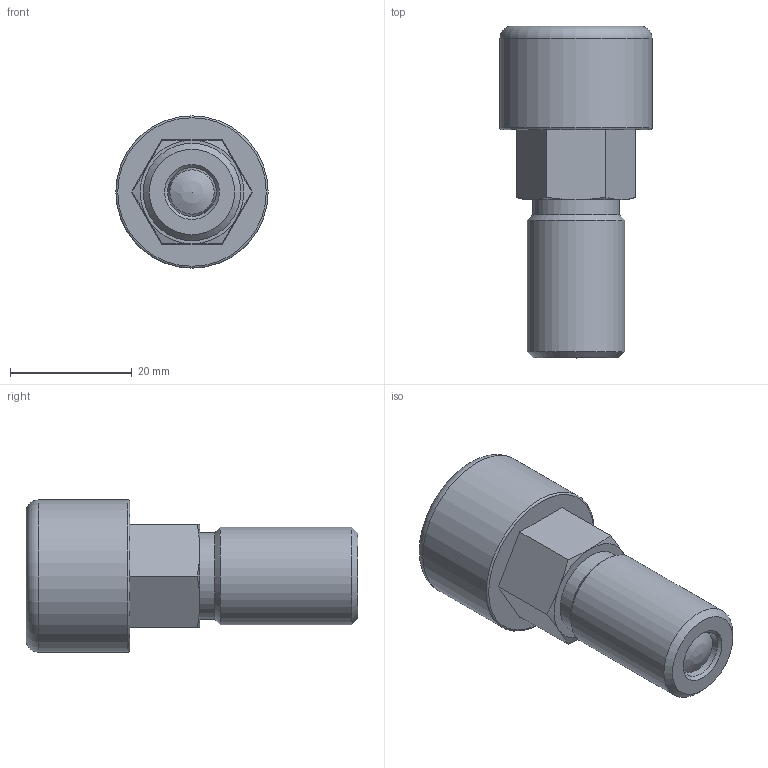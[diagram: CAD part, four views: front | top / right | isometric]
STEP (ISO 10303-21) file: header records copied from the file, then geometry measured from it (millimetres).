
FILE_DESCRIPTION( ( 'STEP AP203' ), '1' );
FILE_NAME( 'C:/Temp/Ganter_Step_05_03_2020/data/3_1/gn514/gn514_a/Locking plunger GN 514-8-A (deactivated).stp', '2020-03-12T08:32:06', ( 'License CC BY-ND 4.0' ), ( 'CADENAS' ), ' ', 'PARTsolutions', ' ' );
FILE_SCHEMA( ( 'CONFIG_CONTROL_DESIGN' ) );
Length unit declared in the file: millimetre
Products named in the file (3): Locking plunger GN 514-8-A (deactivated); _Locking plunger GN 514-8-A (unbetaetigt)-1; _Locking plunger GN 514-8-A (unbetaetigt)-2
Assembly tree (2 placements, depth 2):
  Locking plunger GN 514-8-A (deactivated)
    _Locking plunger GN 514-8-A (unbetaetigt)-1
    _Locking plunger GN 514-8-A (unbetaetigt)-2
Bounding box: 25 x 54.5 x 25 mm (x, y, z)
Volume: 13511 mm3; surface area: 8382.7 mm2
Topology: 2 solids, 2 shells, 68 faces, 135 edges, 81 vertices
Faces by surface type: plane 26, torus 16, cylinder 13, cone 11, bspline 1, sphere 1
Full cylindrical faces by diameter (mm): 8 x6, 12 x4, 14.2 x1, 16 x1, 25 x1
Entity records: 1729 total; most frequent: CARTESIAN_POINT 374, DIRECTION 270, ORIENTED_EDGE 190, AXIS2_PLACEMENT_3D 123, EDGE_LOOP 116, FACE_OUTER_BOUND 97, EDGE_CURVE 95, VERTEX_POINT 79
